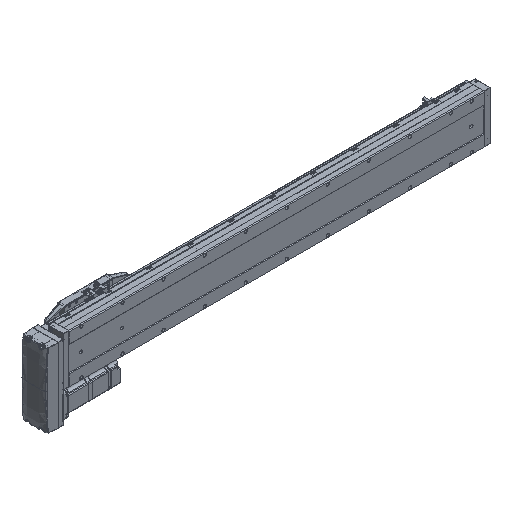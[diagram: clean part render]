
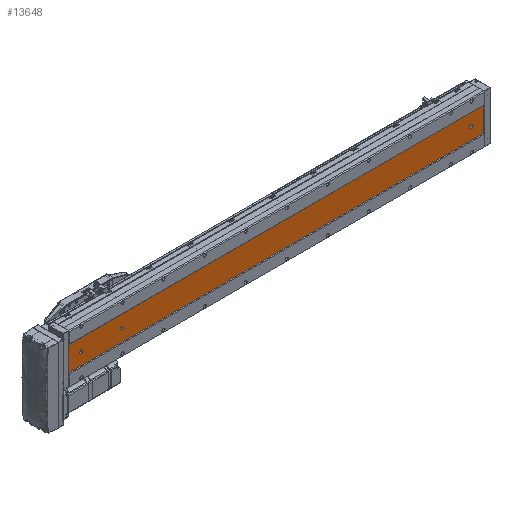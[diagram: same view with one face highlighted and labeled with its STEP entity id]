
A CAD part, isometric view. The second image highlights one B-rep face of the part: STEP entity #13648.
In plain terms, the highlighted planar face has unit normal (0, -1, 0).
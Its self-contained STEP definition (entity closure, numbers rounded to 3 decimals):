
#659 = ORIENTED_EDGE ( 'NONE', *, *, #71136, .T. ) ;
#1373 = DIRECTION ( 'NONE',  ( 0., 1., 0. ) ) ;
#1504 = ORIENTED_EDGE ( 'NONE', *, *, #33214, .T. ) ;
#2169 = FACE_OUTER_BOUND ( 'NONE', #36437, .T. ) ;
#2678 = DIRECTION ( 'NONE',  ( 0., 0., -1. ) ) ;
#3490 = ORIENTED_EDGE ( 'NONE', *, *, #4047, .F. ) ;
#4047 = EDGE_CURVE ( 'NONE', #4739, #7920, #65389, .T. ) ;
#4739 = VERTEX_POINT ( 'NONE', #38185 ) ;
#4872 = DIRECTION ( 'NONE',  ( 0., 0., 1. ) ) ;
#5165 = CARTESIAN_POINT ( 'NONE',  ( -39.892, -52.848, 30. ) ) ;
#5207 = VECTOR ( 'NONE', #66098, 1000. ) ;
#5662 = CARTESIAN_POINT ( 'NONE',  ( -39.892, -52.848, 32. ) ) ;
#5997 = ORIENTED_EDGE ( 'NONE', *, *, #21304, .F. ) ;
#6333 = FACE_BOUND ( 'NONE', #29546, .T. ) ;
#7423 = AXIS2_PLACEMENT_3D ( 'NONE', #59871, #45599, #46439 ) ;
#7500 = CARTESIAN_POINT ( 'NONE',  ( -39.892, -52.848, 884.5 ) ) ;
#7656 = AXIS2_PLACEMENT_3D ( 'NONE', #44129, #83898, #17082 ) ;
#7920 = VERTEX_POINT ( 'NONE', #71164 ) ;
#9535 = VECTOR ( 'NONE', #16267, 1000. ) ;
#10093 = VERTEX_POINT ( 'NONE', #15446 ) ;
#10443 = EDGE_CURVE ( 'NONE', #68003, #35234, #12822, .T. ) ;
#10844 = CARTESIAN_POINT ( 'NONE',  ( -39.892, -52.848, 984.5 ) ) ;
#11237 = DIRECTION ( 'NONE',  ( 0., 0., 1. ) ) ;
#11238 = CIRCLE ( 'NONE', #50353, 3.5 ) ;
#11805 = ORIENTED_EDGE ( 'NONE', *, *, #77903, .T. ) ;
#12093 = CARTESIAN_POINT ( 'NONE',  ( -69.892, -52.848, 1011. ) ) ;
#12096 = DIRECTION ( 'NONE',  ( 0., 1., 0. ) ) ;
#12425 = EDGE_CURVE ( 'NONE', #67052, #54958, #18705, .T. ) ;
#12822 = CIRCLE ( 'NONE', #7423, 3.5 ) ;
#12954 = LINE ( 'NONE', #85275, #39998 ) ;
#13648 = ADVANCED_FACE ( 'NONE', ( #19892, #85414, #6333, #2169 ), #18925, .F. ) ;
#14088 = CARTESIAN_POINT ( 'NONE',  ( -43.392, -52.848, 32. ) ) ;
#15446 = CARTESIAN_POINT ( 'NONE',  ( -69.892, -52.848, 0. ) ) ;
#16013 = AXIS2_PLACEMENT_3D ( 'NONE', #5662, #12096, #11237 ) ;
#16043 = LINE ( 'NONE', #37054, #24375 ) ;
#16267 = DIRECTION ( 'NONE',  ( 0., 0., -1. ) ) ;
#17082 = DIRECTION ( 'NONE',  ( 0., 0., 1. ) ) ;
#17598 = CARTESIAN_POINT ( 'NONE',  ( -39.892, -52.848, 877.5 ) ) ;
#18254 = CIRCLE ( 'NONE', #52824, 3.5 ) ;
#18705 = CIRCLE ( 'NONE', #16013, 3.5 ) ;
#18925 = PLANE ( 'NONE',  #82288 ) ;
#19892 = FACE_BOUND ( 'NONE', #51839, .T. ) ;
#21046 = LINE ( 'NONE', #62331, #67838 ) ;
#21304 = EDGE_CURVE ( 'NONE', #7920, #64624, #27247, .T. ) ;
#24375 = VECTOR ( 'NONE', #50717, 1000. ) ;
#25013 = DIRECTION ( 'NONE',  ( 0., 1., 0. ) ) ;
#25617 = DIRECTION ( 'NONE',  ( 0., 1., 0. ) ) ;
#25710 = AXIS2_PLACEMENT_3D ( 'NONE', #36188, #82894, #55407 ) ;
#25814 = AXIS2_PLACEMENT_3D ( 'NONE', #5165, #25013, #4872 ) ;
#26188 = CARTESIAN_POINT ( 'NONE',  ( -36.392, -52.848, 32. ) ) ;
#27247 = LINE ( 'NONE', #41869, #9535 ) ;
#28165 = LINE ( 'NONE', #39356, #5207 ) ;
#29546 = EDGE_LOOP ( 'NONE', ( #64636, #59787 ) ) ;
#30853 = CARTESIAN_POINT ( 'NONE',  ( -43.392, -52.848, 30. ) ) ;
#31140 = VECTOR ( 'NONE', #31901, 1000. ) ;
#31730 = DIRECTION ( 'NONE',  ( 0., 0., 1. ) ) ;
#31901 = DIRECTION ( 'NONE',  ( 1., 0., 0. ) ) ;
#32097 = ORIENTED_EDGE ( 'NONE', *, *, #34792, .T. ) ;
#32463 = EDGE_CURVE ( 'NONE', #39162, #52252, #18254, .T. ) ;
#33214 = EDGE_CURVE ( 'NONE', #57560, #67052, #16043, .T. ) ;
#34792 = EDGE_CURVE ( 'NONE', #10093, #64624, #28165, .T. ) ;
#35234 = VERTEX_POINT ( 'NONE', #17598 ) ;
#35597 = EDGE_CURVE ( 'NONE', #83656, #58590, #40386, .T. ) ;
#36188 = CARTESIAN_POINT ( 'NONE',  ( -39.892, -52.848, 981. ) ) ;
#36437 = EDGE_LOOP ( 'NONE', ( #32097, #5997, #3490, #659 ) ) ;
#37054 = CARTESIAN_POINT ( 'NONE',  ( -43.392, -52.848, 1011. ) ) ;
#37460 = EDGE_CURVE ( 'NONE', #54958, #39162, #21046, .T. ) ;
#38185 = CARTESIAN_POINT ( 'NONE',  ( -69.892, -52.848, 1011. ) ) ;
#39162 = VERTEX_POINT ( 'NONE', #71523 ) ;
#39356 = CARTESIAN_POINT ( 'NONE',  ( -69.892, -52.848, 0. ) ) ;
#39998 = VECTOR ( 'NONE', #64372, 1000. ) ;
#40386 = CIRCLE ( 'NONE', #25710, 3.5 ) ;
#41869 = CARTESIAN_POINT ( 'NONE',  ( -9.892, -52.848, 1011. ) ) ;
#44129 = CARTESIAN_POINT ( 'NONE',  ( -39.892, -52.848, 881. ) ) ;
#45342 = EDGE_CURVE ( 'NONE', #35234, #68003, #71267, .T. ) ;
#45599 = DIRECTION ( 'NONE',  ( 0., 1., 0. ) ) ;
#45865 = CARTESIAN_POINT ( 'NONE',  ( -9.892, -52.848, 0. ) ) ;
#46439 = DIRECTION ( 'NONE',  ( 0., 0., 1. ) ) ;
#46747 = DIRECTION ( 'NONE',  ( 0., 0., 1. ) ) ;
#47545 = ORIENTED_EDGE ( 'NONE', *, *, #37460, .T. ) ;
#50353 = AXIS2_PLACEMENT_3D ( 'NONE', #67088, #1373, #46747 ) ;
#50717 = DIRECTION ( 'NONE',  ( 0., 0., 1. ) ) ;
#51839 = EDGE_LOOP ( 'NONE', ( #47545, #81439, #11805, #1504, #53474 ) ) ;
#52252 = VERTEX_POINT ( 'NONE', #79898 ) ;
#52824 = AXIS2_PLACEMENT_3D ( 'NONE', #70699, #77364, #56852 ) ;
#53474 = ORIENTED_EDGE ( 'NONE', *, *, #12425, .T. ) ;
#54958 = VERTEX_POINT ( 'NONE', #26188 ) ;
#55407 = DIRECTION ( 'NONE',  ( 0., 0., 1. ) ) ;
#56852 = DIRECTION ( 'NONE',  ( 0., 0., 1. ) ) ;
#57560 = VERTEX_POINT ( 'NONE', #30853 ) ;
#57901 = EDGE_CURVE ( 'NONE', #58590, #83656, #11238, .T. ) ;
#58590 = VERTEX_POINT ( 'NONE', #10844 ) ;
#59044 = CARTESIAN_POINT ( 'NONE',  ( -39.892, -52.848, 977.5 ) ) ;
#59787 = ORIENTED_EDGE ( 'NONE', *, *, #57901, .T. ) ;
#59833 = ORIENTED_EDGE ( 'NONE', *, *, #45342, .T. ) ;
#59871 = CARTESIAN_POINT ( 'NONE',  ( -39.892, -52.848, 881. ) ) ;
#62331 = CARTESIAN_POINT ( 'NONE',  ( -36.392, -52.848, 1011. ) ) ;
#64372 = DIRECTION ( 'NONE',  ( 0., 0., -1. ) ) ;
#64624 = VERTEX_POINT ( 'NONE', #45865 ) ;
#64636 = ORIENTED_EDGE ( 'NONE', *, *, #35597, .T. ) ;
#65389 = LINE ( 'NONE', #12093, #31140 ) ;
#65408 = CARTESIAN_POINT ( 'NONE',  ( -69.892, -52.848, 1011. ) ) ;
#66098 = DIRECTION ( 'NONE',  ( 1., 0., 0. ) ) ;
#67052 = VERTEX_POINT ( 'NONE', #14088 ) ;
#67088 = CARTESIAN_POINT ( 'NONE',  ( -39.892, -52.848, 981. ) ) ;
#67838 = VECTOR ( 'NONE', #2678, 1000. ) ;
#68003 = VERTEX_POINT ( 'NONE', #7500 ) ;
#68990 = CIRCLE ( 'NONE', #25814, 3.5 ) ;
#70699 = CARTESIAN_POINT ( 'NONE',  ( -39.892, -52.848, 30. ) ) ;
#71136 = EDGE_CURVE ( 'NONE', #4739, #10093, #12954, .T. ) ;
#71164 = CARTESIAN_POINT ( 'NONE',  ( -9.892, -52.848, 1011. ) ) ;
#71267 = CIRCLE ( 'NONE', #7656, 3.5 ) ;
#71523 = CARTESIAN_POINT ( 'NONE',  ( -36.392, -52.848, 30. ) ) ;
#74067 = EDGE_LOOP ( 'NONE', ( #59833, #79771 ) ) ;
#77364 = DIRECTION ( 'NONE',  ( 0., 1., 0. ) ) ;
#77903 = EDGE_CURVE ( 'NONE', #52252, #57560, #68990, .T. ) ;
#79771 = ORIENTED_EDGE ( 'NONE', *, *, #10443, .T. ) ;
#79898 = CARTESIAN_POINT ( 'NONE',  ( -39.892, -52.848, 26.5 ) ) ;
#81439 = ORIENTED_EDGE ( 'NONE', *, *, #32463, .T. ) ;
#82288 = AXIS2_PLACEMENT_3D ( 'NONE', #65408, #25617, #31730 ) ;
#82894 = DIRECTION ( 'NONE',  ( 0., 1., 0. ) ) ;
#83656 = VERTEX_POINT ( 'NONE', #59044 ) ;
#83898 = DIRECTION ( 'NONE',  ( 0., 1., 0. ) ) ;
#85275 = CARTESIAN_POINT ( 'NONE',  ( -69.892, -52.848, 1011. ) ) ;
#85414 = FACE_BOUND ( 'NONE', #74067, .T. ) ;
